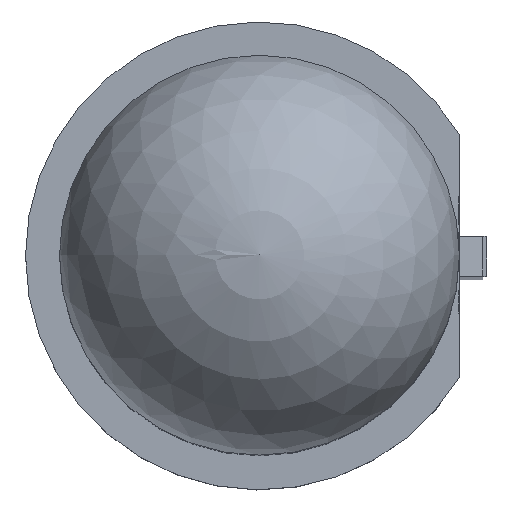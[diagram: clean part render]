
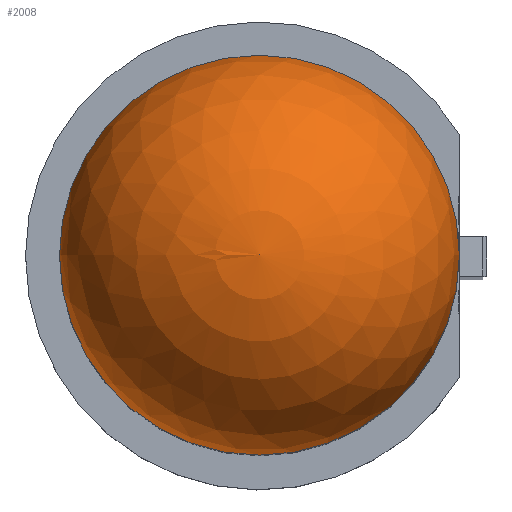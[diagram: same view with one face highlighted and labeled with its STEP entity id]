
A CAD part, top view. The second image highlights one B-rep face of the part: STEP entity #2008.
In plain terms, the highlighted spherical face has radius 2.5 mm.
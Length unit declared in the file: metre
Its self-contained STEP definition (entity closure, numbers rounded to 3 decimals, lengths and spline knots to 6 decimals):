
#39=SPHERICAL_SURFACE('',#2157,0.0025);
#123=CIRCLE('',#2156,0.0025);
#443=ORIENTED_EDGE('',*,*,#890,.T.);
#890=EDGE_CURVE('',#1137,#1137,#123,.T.);
#1137=VERTEX_POINT('',#2988);
#1707=EDGE_LOOP('',(#443));
#1823=FACE_BOUND('',#1707,.T.);
#2008=ADVANCED_FACE('',(#1823),#39,.T.);
#2156=AXIS2_PLACEMENT_3D('',#2987,#2458,#2459);
#2157=AXIS2_PLACEMENT_3D('',#2989,#2460,#2461);
#2458=DIRECTION('',(0.,0.,1.));
#2459=DIRECTION('',(1.,0.,0.));
#2460=DIRECTION('',(0.,0.,-1.));
#2461=DIRECTION('',(-1.,0.,0.));
#2987=CARTESIAN_POINT('',(0.,0.,0.0061));
#2988=CARTESIAN_POINT('',(0.0025,0.,0.0061));
#2989=CARTESIAN_POINT('',(0.,0.,0.0061));
